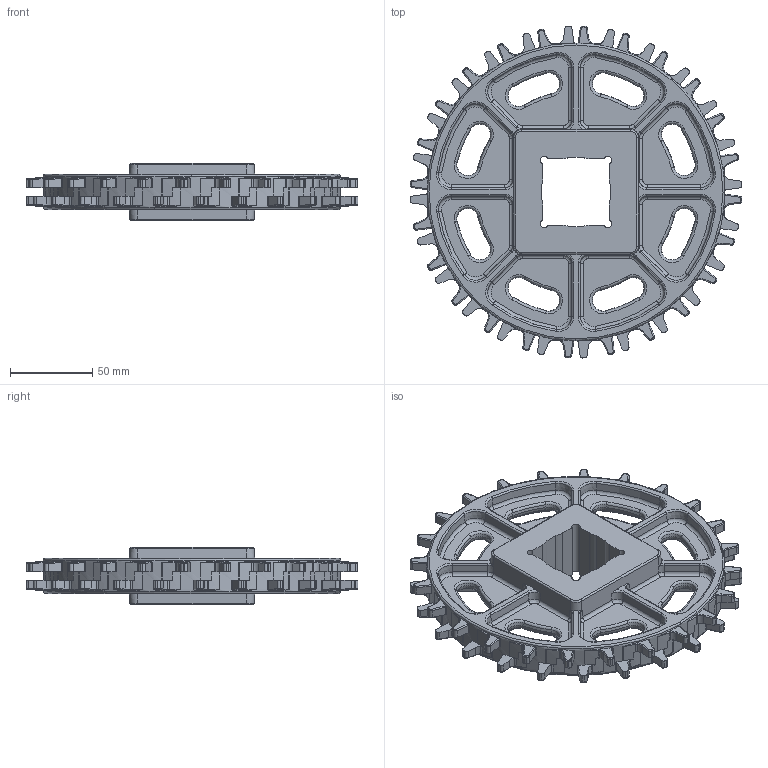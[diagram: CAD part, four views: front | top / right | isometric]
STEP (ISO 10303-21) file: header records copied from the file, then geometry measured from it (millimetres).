
FILE_DESCRIPTION(/* description */ (''),/* implementation_level */ '2;1');
FILE_NAME(/* name */ 'HS-500-24T-2R-S40.stp',/* time_stamp */ '2025-09-17T17:31:50+08:00',/* author */ (''),/* organization */ (''),/* preprocessor_version */ 'ST-DEVELOPER v15',/* originating_system */ 'SIEMENS PLM Software NX 8.5',/* authorisation */ '');
FILE_SCHEMA (('AP203_CONFIGURATION_CONTROLLED_3D_DESIGN_OF_MECHANICAL_PARTS_AND_ASSEMBLIES_MIM_LF { 1 0 10303 403 2 1 2}'));
Products named in the file (1): Admi23A89FF2lssg
Bounding box: 201.68 x 201.68 x 34.99 mm (x, y, z)
Volume: 340915 mm3; surface area: 91424.1 mm2
Topology: 1 solids, 1 shells, 1617 faces, 4001 edges, 2412 vertices
Faces by surface type: cylinder 573, bspline 360, plane 216, torus 212, cone 208, extrusion 48
Full cylindrical faces by diameter (mm): 180.647 x1
Entity records: 68000 total; most frequent: CARTESIAN_POINT 22272, ORIENTED_EDGE 8004, DIRECTION 6158, EDGE_CURVE 4002, AXIS2_PLACEMENT_3D 2558, VERTEX_POINT 2414, EDGE_LOOP 1662, ADVANCED_FACE 1617
